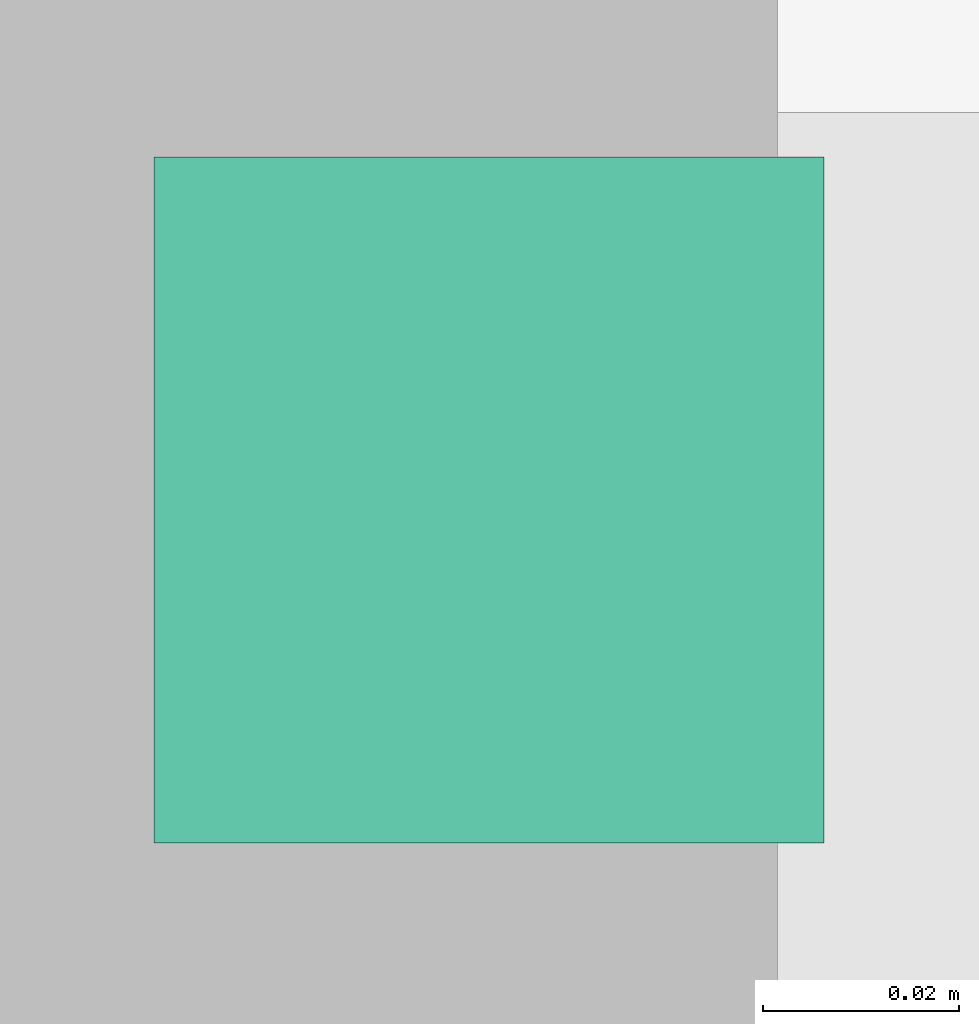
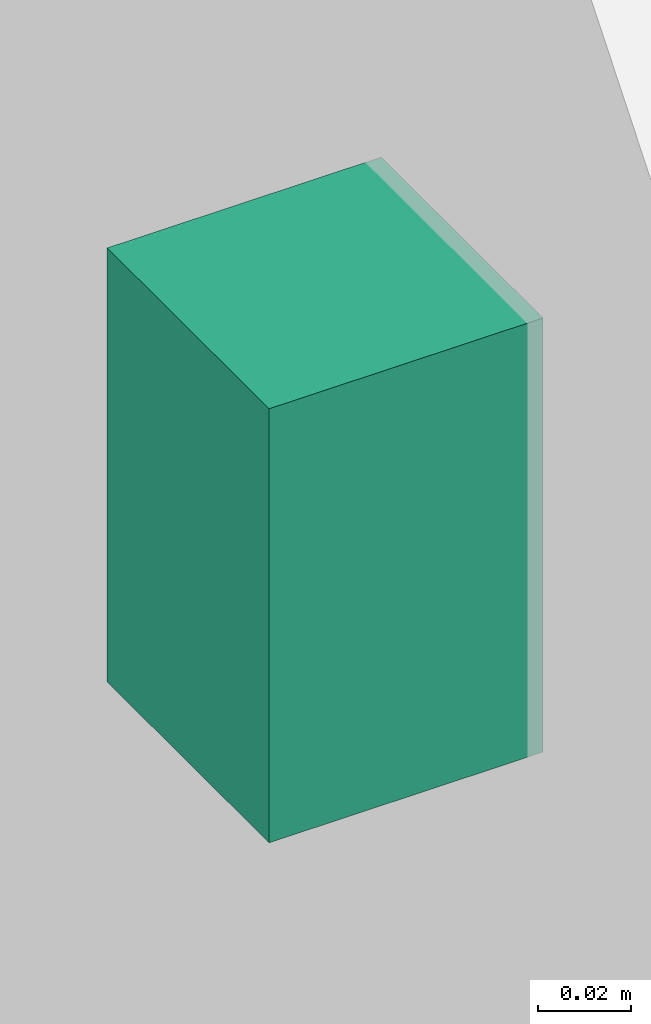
# One storey, part 33 of 108: 1 outlet.
"""IFC4 building model written with IfcOpenShell, lengths in feet."""

from ifc_helpers import new_model, entity, si_unit, converted_unit, derived_unit, direction, frame, origin, origin_2d_with_axis, place, context, subcontext, project, spatial, rectangle, extrude, source, transform, mapped, type_object, type_shapes, element, save


model = new_model("IFC4")

# Units and contexts
model_context = context("Model", 3, precision=0.0001, world=origin(), true_north=direction((6.12303176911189e-17, 1.0)))
body_context = subcontext(model_context, "Body", "Model", "MODEL_VIEW")
ifc_project = project(units=[converted_unit("LENGTHUNIT", "FOOT", entity("IfcRatioMeasure", 0.3048), si_unit("LENGTHUNIT", "METRE"), dimensions=[1, 0, 0, 0, 0, 0, 0]), converted_unit("AREAUNIT", "SQUARE FOOT", entity("IfcRatioMeasure", 0.09290304), si_unit("AREAUNIT", "SQUARE_METRE"), dimensions=[2, 0, 0, 0, 0, 0, 0]), converted_unit("VOLUMEUNIT", "CUBIC FOOT", entity("IfcRatioMeasure", 0.028316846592), si_unit("VOLUMEUNIT", "CUBIC_METRE"), dimensions=[3, 0, 0, 0, 0, 0, 0]), converted_unit("PLANEANGLEUNIT", "DEGREE", entity("IfcRatioMeasure", 0.0174532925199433), si_unit("PLANEANGLEUNIT", "RADIAN"), dimensions=[0, 0, 0, 0, 0, 0, 0]), si_unit("MASSUNIT", "GRAM", prefix="KILO"), derived_unit("MASSDENSITYUNIT", [(si_unit("MASSUNIT", "GRAM", prefix="KILO"), 1), (si_unit("LENGTHUNIT", "METRE"), -3)]), si_unit("TIMEUNIT", "SECOND"), si_unit("FREQUENCYUNIT", "HERTZ"), si_unit("THERMODYNAMICTEMPERATUREUNIT", "DEGREE_CELSIUS"), derived_unit("THERMALTRANSMITTANCEUNIT", [(si_unit("MASSUNIT", "GRAM", prefix="KILO"), 1), (si_unit("THERMODYNAMICTEMPERATUREUNIT", "KELVIN"), -1), (si_unit("TIMEUNIT", "SECOND"), -3)]), derived_unit("VOLUMETRICFLOWRATEUNIT", [(si_unit("LENGTHUNIT", "METRE"), 3), (si_unit("TIMEUNIT", "SECOND"), -1)]), si_unit("ELECTRICCURRENTUNIT", "AMPERE"), si_unit("ELECTRICVOLTAGEUNIT", "VOLT"), si_unit("POWERUNIT", "WATT"), si_unit("FORCEUNIT", "NEWTON"), si_unit("ILLUMINANCEUNIT", "LUX"), si_unit("LUMINOUSFLUXUNIT", "LUMEN"), si_unit("LUMINOUSINTENSITYUNIT", "CANDELA"), derived_unit("USERDEFINED", [(si_unit("MASSUNIT", "GRAM", prefix="KILO"), -1), (si_unit("LENGTHUNIT", "METRE"), -2), (si_unit("TIMEUNIT", "SECOND"), 3), (si_unit("LUMINOUSFLUXUNIT", "LUMEN"), 1)]), derived_unit("LINEARVELOCITYUNIT", [(si_unit("LENGTHUNIT", "METRE"), 1), (si_unit("TIMEUNIT", "SECOND"), -1)]), si_unit("PRESSUREUNIT", "PASCAL"), derived_unit("USERDEFINED", [(si_unit("LENGTHUNIT", "METRE"), -2), (si_unit("MASSUNIT", "GRAM", prefix="KILO"), 1), (si_unit("TIMEUNIT", "SECOND"), -2)])], contexts=[model_context])

# Site, building, storey
site_placement = place(None, origin())
site = spatial("IfcSite", under=ifc_project, at=site_placement, Name="Default", CompositionType="ELEMENT")
building_placement = place(site_placement, origin())
building = spatial("IfcBuilding", under=site, at=building_placement, CompositionType="ELEMENT")
storey_placement = place(building_placement, frame((0.0, 0.0, 168.0)))
storey = spatial("IfcBuildingStorey", under=building, at=storey_placement, Name="Level 15", CompositionType="ELEMENT", Elevation=168.0)

# Outlet
outlet_type = type_object("IfcOutletType", Name="Duplex-Standard 2", PredefinedType="POWEROUTLET")
shared_shape = source(origin(), body_context, "Body", "SweptSolid", [
    extrude(rectangle(XDim=0.229166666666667, YDim=0.375000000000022, at=origin_2d_with_axis()), frame((0.0, 0.0, -0.208333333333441), z_axis=(0.0, 0.0, 1.0), x_axis=(-1.0, 0.0, 0.0)), (0.0, 0.0, 1.0), 0.208333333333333),
    extrude(rectangle(XDim=0.229166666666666, YDim=0.375000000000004, at=origin_2d_with_axis()), frame((0.0, 0.0, 0.0), z_axis=(0.0, 0.0, 1.0), x_axis=(-1.0, 0.0, 0.0)), (0.0, 0.0, 1.0), 0.015625),
])
type_shapes(outlet_type, [shared_shape])
outlet_placement = place(storey_placement, frame((-58.5256156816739, -19.8491023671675, 2.33333333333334), z_axis=(1.0, 0.0, 0.0), x_axis=(0.0, -1.0, 0.0)))
element("IfcOutlet", 1, at=outlet_placement, inside=storey, type_object=outlet_type, Name="Power-Recessed-All2:Duplex-Standard 2", ObjectType="Power-Recessed-All2:Duplex-Standard 2", PredefinedType="POWEROUTLET", context=body_context, shape_type="MappedRepresentation", body=[
    mapped(shared_shape, transform((0.0, 0.0, 0.0), scale=1.0)),
])

save(model, "model.ifc")
